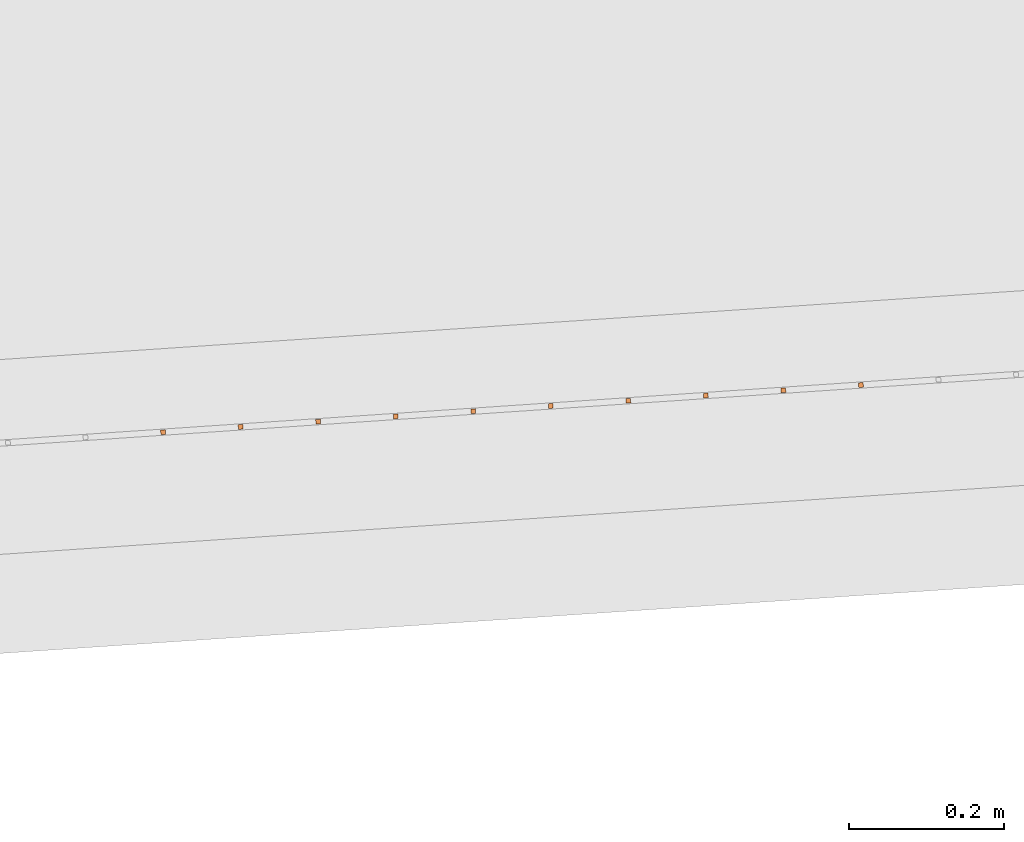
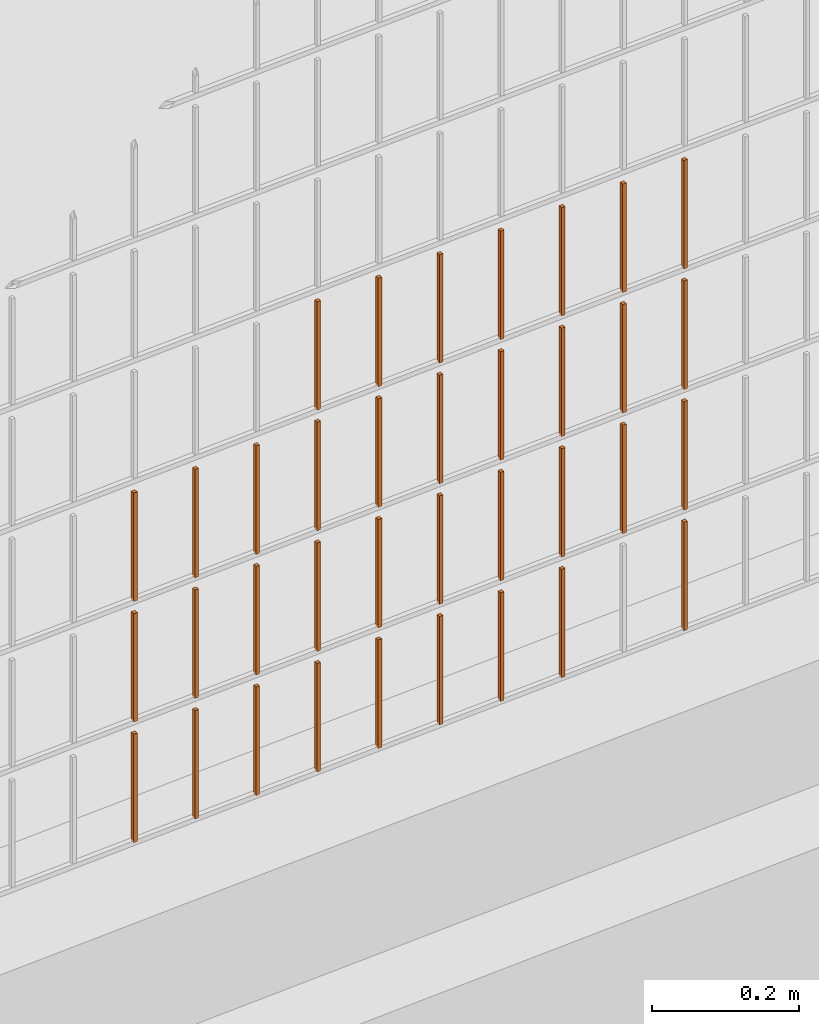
# One storey, part 301 of 1809: 36 proxies, 1 element without a shape of its own.
"""IFC2X3 building model written with IfcOpenShell, lengths in millimetres."""

from ifc_helpers import new_model, entity, si_unit, converted_unit, derived_unit, money_unit, direction, frame, origin_with_axes, place, context, subcontext, project, spatial, faceted_brep, source, transform, mapped, material, type_object, element, aggregate, save


model = new_model("IFC2X3")

# Units and contexts
model_context = context("Model", 3, precision=0.01, world=origin_with_axes(), true_north=direction((0.0, 1.0)))
body_context = subcontext(model_context, "Body", "Model", "MODEL_VIEW")
ifc_project = project(units=[si_unit("LENGTHUNIT", "METRE", prefix="MILLI"), si_unit("AREAUNIT", "SQUARE_METRE"), si_unit("VOLUMEUNIT", "CUBIC_METRE"), converted_unit("PLANEANGLEUNIT", "DEGREE", entity("IfcPlaneAngleMeasure", 0.0174532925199), si_unit("PLANEANGLEUNIT", "RADIAN"), dimensions=[0, 0, 0, 0, 0, 0, 0]), si_unit("SOLIDANGLEUNIT", "STERADIAN"), money_unit("EUR"), converted_unit("TIMEUNIT", "Year", entity("IfcTimeMeasure", 31556926.0), si_unit("TIMEUNIT", "SECOND"), dimensions=[0, 0, 1, 0, 0, 0, 0]), si_unit("MASSUNIT", "GRAM", prefix="KILO"), si_unit("THERMODYNAMICTEMPERATUREUNIT", "DEGREE_CELSIUS"), si_unit("LUMINOUSINTENSITYUNIT", "LUMEN"), si_unit("ENERGYUNIT", "JOULE", prefix="MEGA"), derived_unit("THERMALCONDUCTANCEUNIT", [(si_unit("POWERUNIT", "WATT"), 1), (si_unit("LENGTHUNIT", "METRE"), -1), (si_unit("THERMODYNAMICTEMPERATUREUNIT", "KELVIN"), -1)]), derived_unit("SPECIFICHEATCAPACITYUNIT", [(si_unit("ENERGYUNIT", "JOULE"), 1), (si_unit("MASSUNIT", "GRAM", prefix="KILO"), -1), (si_unit("THERMODYNAMICTEMPERATUREUNIT", "KELVIN"), -1)]), derived_unit("MASSDENSITYUNIT", [(si_unit("MASSUNIT", "GRAM", prefix="KILO"), 1), (si_unit("VOLUMEUNIT", "CUBIC_METRE"), -1)])], contexts=[model_context])

# Site, building, storey
site_placement = place(None, origin_with_axes())
site = spatial("IfcSite", under=ifc_project, at=site_placement, Name="Politse- ja Piirivalveameti ning Päästeameti ühishoone", CompositionType="ELEMENT")
building_placement = place(site_placement, origin_with_axes())
building = spatial("IfcBuilding", under=site, at=building_placement, Name="Politse- ja Piirivalveameti ning Päästeameti ühishoone", CompositionType="ELEMENT")
storey_placement = place(building_placement, origin_with_axes())
storey = spatial("IfcBuildingStorey", under=building, at=storey_placement, Name="Esimene korrus", CompositionType="ELEMENT", Elevation=0.0)

# Proxies
building_element_proxy_type_1 = type_object("IfcBuildingElementProxyType", Name="Railing Type", PredefinedType="NOTDEFINED")
proxy_1_placement = place(storey_placement, frame((89252.001212, -29183.4766571, 203.661247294), z_axis=(0.0, 0.0, 1.0), x_axis=(1.0, 0.0, 0.0)))
proxy_1 = element("IfcBuildingElementProxy", 1, at=proxy_1_placement, inside=storey, type_object=building_element_proxy_type_1, Name="PIIRDEAED")
ifc_material = material(Name="ET-03_Raud")
building_element_proxy_type_2 = type_object("IfcBuildingElementProxyType", Name="IfcBuildingElementProxy", PredefinedType="NOTDEFINED")
shared_shape_1 = source(origin_with_axes(), body_context, "Body", "Brep", [
    faceted_brep([(3.0, 3.0, -0.000752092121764), (-3.0, 3.0, -0.000752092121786), (-3.0, 3.0, 179.99926046), (3.0, 3.0, 179.99926046), (3.0, -3.0, 0.000752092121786), (-3.0, -3.0, 0.000752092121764), (-3.0, -3.0, 180.000764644), (3.0, -3.0, 180.000764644)], [[[0, 1, 2, 3]], [[0, 4, 5, 1]], [[1, 5, 6, 2]], [[3, 2, 6, 7]], [[4, 0, 3, 7]], [[5, 4, 7, 6]]]),
])
proxy_2_placement = place(proxy_1_placement, frame((-43926.5946254, -20264.8504556, 416.197010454), z_axis=(0.0, 0.0, 1.0), x_axis=(1.0, 0.0, 0.0)))
proxy_2 = element("IfcBuildingElementProxy", 2, at=proxy_2_placement, type_object=building_element_proxy_type_2, material=ifc_material, Name="BALUSTER - 001", context=body_context, shape_type="MappedRepresentation", body=[
    mapped(shared_shape_1, transform((0.0, 0.0, 0.0), x_axis=(-0.0673926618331, 0.997726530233, 0.0), y_axis=(-0.997726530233, -0.0673926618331, 0.0), z_axis=(0.0, 0.0, 1.0))),
])
shared_shape_2 = source(origin_with_axes(), body_context, "Body", "Brep", [
    faceted_brep([(3.0, 3.0, -0.000752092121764), (-3.0, 3.0, -0.000752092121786), (-3.0, 3.0, 179.99926046), (3.0, 3.0, 179.99926046), (3.0, -3.0, 0.000752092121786), (-3.0, -3.0, 0.000752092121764), (-3.0, -3.0, 180.000764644), (3.0, -3.0, 180.000764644)], [[[0, 1, 2, 3]], [[0, 4, 5, 1]], [[1, 5, 6, 2]], [[3, 2, 6, 7]], [[4, 0, 3, 7]], [[5, 4, 7, 6]]]),
])
proxy_3_placement = place(proxy_1_placement, frame((-43926.5946254, -20264.8504556, 216.197010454), z_axis=(0.0, 0.0, 1.0), x_axis=(1.0, 0.0, 0.0)))
proxy_3 = element("IfcBuildingElementProxy", 3, at=proxy_3_placement, type_object=building_element_proxy_type_2, material=ifc_material, Name="BALUSTER - 001", context=body_context, shape_type="MappedRepresentation", body=[
    mapped(shared_shape_2, transform((0.0, 0.0, 0.0), x_axis=(-0.0673926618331, 0.997726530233, 0.0), y_axis=(-0.997726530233, -0.0673926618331, 0.0), z_axis=(0.0, 0.0, 1.0))),
])
shared_shape_3 = source(origin_with_axes(), body_context, "Body", "Brep", [
    faceted_brep([(3.0, 3.0, -0.000752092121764), (-3.0, 3.0, -0.000752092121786), (-3.0, 3.0, 179.99926046), (3.0, 3.0, 179.99926046), (3.0, -3.0, 0.000752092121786), (-3.0, -3.0, 0.000752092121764), (-3.0, -3.0, 180.000764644), (3.0, -3.0, 180.000764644)], [[[0, 1, 2, 3]], [[0, 4, 5, 1]], [[1, 5, 6, 2]], [[3, 2, 6, 7]], [[4, 0, 3, 7]], [[5, 4, 7, 6]]]),
])
proxy_4_placement = place(proxy_1_placement, frame((-43926.5946254, -20264.8504556, 16.1970104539), z_axis=(0.0, 0.0, 1.0), x_axis=(1.0, 0.0, 0.0)))
proxy_4 = element("IfcBuildingElementProxy", 4, at=proxy_4_placement, type_object=building_element_proxy_type_2, material=ifc_material, Name="BALUSTER - 001", context=body_context, shape_type="MappedRepresentation", body=[
    mapped(shared_shape_3, transform((0.0, 0.0, 0.0), x_axis=(-0.0673926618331, 0.997726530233, 0.0), y_axis=(-0.997726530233, -0.0673926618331, 0.0), z_axis=(0.0, 0.0, 1.0))),
])
shared_shape_4 = source(origin_with_axes(), body_context, "Body", "Brep", [
    faceted_brep([(3.0, 3.0, -0.000752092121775), (-3.0, 3.0, -0.000752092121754), (-3.0, 3.0, 179.99926046), (3.0, 3.0, 179.99926046), (3.0, -3.0, 0.000752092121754), (-3.0, -3.0, 0.000752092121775), (-3.0, -3.0, 180.000764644), (3.0, -3.0, 180.000764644)], [[[0, 1, 2, 3]], [[0, 4, 5, 1]], [[1, 5, 6, 2]], [[3, 2, 6, 7]], [[4, 0, 3, 7]], [[5, 4, 7, 6]]]),
])
proxy_5_placement = place(proxy_1_placement, frame((-43627.2766664, -20244.632657, 16.2722196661), z_axis=(0.0, 0.0, 1.0), x_axis=(1.0, 0.0, 0.0)))
proxy_5 = element("IfcBuildingElementProxy", 5, at=proxy_5_placement, type_object=building_element_proxy_type_2, material=ifc_material, Name="BALUSTER - 001", context=body_context, shape_type="MappedRepresentation", body=[
    mapped(shared_shape_4, transform((0.0, 0.0, 0.0), x_axis=(-0.0673926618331, 0.997726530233, 0.0), y_axis=(-0.997726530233, -0.0673926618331, 0.0), z_axis=(0.0, 0.0, 1.0))),
])
shared_shape_5 = source(origin_with_axes(), body_context, "Body", "Brep", [
    faceted_brep([(3.0, 3.0, -0.000752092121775), (-3.0, 3.0, -0.000752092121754), (-3.0, 3.0, 179.99926046), (3.0, 3.0, 179.99926046), (3.0, -3.0, 0.000752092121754), (-3.0, -3.0, 0.000752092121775), (-3.0, -3.0, 180.000764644), (3.0, -3.0, 180.000764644)], [[[0, 1, 2, 3]], [[0, 4, 5, 1]], [[1, 5, 6, 2]], [[3, 2, 6, 7]], [[4, 0, 3, 7]], [[5, 4, 7, 6]]]),
])
proxy_6_placement = place(proxy_1_placement, frame((-43627.2766664, -20244.632657, 416.272219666), z_axis=(0.0, 0.0, 1.0), x_axis=(1.0, 0.0, 0.0)))
proxy_6 = element("IfcBuildingElementProxy", 6, at=proxy_6_placement, type_object=building_element_proxy_type_2, material=ifc_material, Name="BALUSTER - 001", context=body_context, shape_type="MappedRepresentation", body=[
    mapped(shared_shape_5, transform((0.0, 0.0, 0.0), x_axis=(-0.0673926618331, 0.997726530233, 0.0), y_axis=(-0.997726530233, -0.0673926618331, 0.0), z_axis=(0.0, 0.0, 1.0))),
])
shared_shape_6 = source(origin_with_axes(), body_context, "Body", "Brep", [
    faceted_brep([(3.0, 3.0, -0.000752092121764), (-3.0, 3.0, -0.000752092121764), (-3.0, 3.0, 179.99926046), (3.0, 3.0, 179.99926046), (3.0, -3.0, 0.000752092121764), (-3.0, -3.0, 0.000752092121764), (-3.0, -3.0, 180.000764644), (3.0, -3.0, 180.000764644)], [[[0, 1, 2, 3]], [[0, 4, 5, 1]], [[1, 5, 6, 2]], [[3, 2, 6, 7]], [[4, 0, 3, 7]], [[5, 4, 7, 6]]]),
])
proxy_7_placement = place(proxy_1_placement, frame((-43727.0493194, -20251.3719232, 616.247149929), z_axis=(0.0, 0.0, 1.0), x_axis=(1.0, 0.0, 0.0)))
proxy_7 = element("IfcBuildingElementProxy", 7, at=proxy_7_placement, type_object=building_element_proxy_type_2, material=ifc_material, Name="BALUSTER - 001", context=body_context, shape_type="MappedRepresentation", body=[
    mapped(shared_shape_6, transform((0.0, 0.0, 0.0), x_axis=(-0.0673926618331, 0.997726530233, 0.0), y_axis=(-0.997726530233, -0.0673926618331, 0.0), z_axis=(0.0, 0.0, 1.0))),
])
shared_shape_7 = source(origin_with_axes(), body_context, "Body", "Brep", [
    faceted_brep([(3.0, 3.0, -0.000752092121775), (-3.0, 3.0, -0.000752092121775), (-3.0, 3.0, 179.99926046), (3.0, 3.0, 179.99926046), (3.0, -3.0, 0.000752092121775), (-3.0, -3.0, 0.000752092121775), (-3.0, -3.0, 180.000764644), (3.0, -3.0, 180.000764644)], [[[0, 1, 2, 3]], [[0, 4, 5, 1]], [[1, 5, 6, 2]], [[3, 2, 6, 7]], [[4, 0, 3, 7]], [[5, 4, 7, 6]]]),
])
proxy_8_placement = place(proxy_1_placement, frame((-43327.9587073, -20224.4148585, 416.347428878), z_axis=(0.0, 0.0, 1.0), x_axis=(1.0, 0.0, 0.0)))
proxy_8 = element("IfcBuildingElementProxy", 8, at=proxy_8_placement, type_object=building_element_proxy_type_2, material=ifc_material, Name="BALUSTER - 001", context=body_context, shape_type="MappedRepresentation", body=[
    mapped(shared_shape_7, transform((0.0, 0.0, 0.0), x_axis=(-0.0673926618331, 0.997726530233, 0.0), y_axis=(-0.997726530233, -0.0673926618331, 0.0), z_axis=(0.0, 0.0, 1.0))),
])
proxy_9_placement = place(proxy_1_placement, frame((-43327.9587073, -20224.4148585, 616.347428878), z_axis=(0.0, 0.0, 1.0), x_axis=(1.0, 0.0, 0.0)))
proxy_9 = element("IfcBuildingElementProxy", 9, at=proxy_9_placement, type_object=building_element_proxy_type_2, material=ifc_material, Name="BALUSTER - 001", context=body_context, shape_type="MappedRepresentation", body=[
    mapped(shared_shape_7, transform((0.0, 0.0, 0.0), x_axis=(-0.0673926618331, 0.997726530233, 0.0), y_axis=(-0.997726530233, -0.0673926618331, 0.0), z_axis=(0.0, 0.0, 1.0))),
])
shared_shape_8 = source(origin_with_axes(), body_context, "Body", "Brep", [
    faceted_brep([(3.0, 3.0, -0.000752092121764), (-3.0, 3.0, -0.000752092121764), (-3.0, 3.0, 179.99926046), (3.0, 3.0, 179.99926046), (3.0, -3.0, 0.000752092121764), (-3.0, -3.0, 0.000752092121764), (-3.0, -3.0, 180.000764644), (3.0, -3.0, 180.000764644)], [[[0, 1, 2, 3]], [[0, 4, 5, 1]], [[1, 5, 6, 2]], [[3, 2, 6, 7]], [[4, 0, 3, 7]], [[5, 4, 7, 6]]]),
])
proxy_10_placement = place(proxy_1_placement, frame((-43527.5040133, -20237.8933908, 416.297289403), z_axis=(0.0, 0.0, 1.0), x_axis=(1.0, 0.0, 0.0)))
proxy_10 = element("IfcBuildingElementProxy", 10, at=proxy_10_placement, type_object=building_element_proxy_type_2, material=ifc_material, Name="BALUSTER - 001", context=body_context, shape_type="MappedRepresentation", body=[
    mapped(shared_shape_8, transform((0.0, 0.0, 0.0), x_axis=(-0.0673926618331, 0.997726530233, 0.0), y_axis=(-0.997726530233, -0.0673926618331, 0.0), z_axis=(0.0, 0.0, 1.0))),
])
shared_shape_9 = source(origin_with_axes(), body_context, "Body", "Brep", [
    faceted_brep([(3.0, 3.0, -0.000752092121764), (-3.0, 3.0, -0.000752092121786), (-3.0, 3.0, 179.99926046), (3.0, 3.0, 179.99926046), (3.0, -3.0, 0.000752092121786), (-3.0, -3.0, 0.000752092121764), (-3.0, -3.0, 180.000764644), (3.0, -3.0, 180.000764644)], [[[0, 1, 2, 3]], [[0, 4, 5, 1]], [[1, 5, 6, 2]], [[3, 2, 6, 7]], [[4, 0, 3, 7]], [[5, 4, 7, 6]]]),
])
proxy_11_placement = place(proxy_1_placement, frame((-43826.8219724, -20258.1111894, 216.222080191), z_axis=(0.0, 0.0, 1.0), x_axis=(1.0, 0.0, 0.0)))
proxy_11 = element("IfcBuildingElementProxy", 11, at=proxy_11_placement, type_object=building_element_proxy_type_2, material=ifc_material, Name="BALUSTER - 001", context=body_context, shape_type="MappedRepresentation", body=[
    mapped(shared_shape_9, transform((0.0, 0.0, 0.0), x_axis=(-0.0673926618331, 0.997726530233, 0.0), y_axis=(-0.997726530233, -0.0673926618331, 0.0), z_axis=(0.0, 0.0, 1.0))),
])
proxy_12_placement = place(proxy_1_placement, frame((-43826.8219724, -20258.1111894, 616.222080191), z_axis=(0.0, 0.0, 1.0), x_axis=(1.0, 0.0, 0.0)))
proxy_12 = element("IfcBuildingElementProxy", 12, at=proxy_12_placement, type_object=building_element_proxy_type_2, material=ifc_material, Name="BALUSTER - 001", context=body_context, shape_type="MappedRepresentation", body=[
    mapped(shared_shape_9, transform((0.0, 0.0, 0.0), x_axis=(-0.0673926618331, 0.997726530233, 0.0), y_axis=(-0.997726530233, -0.0673926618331, 0.0), z_axis=(0.0, 0.0, 1.0))),
])
shared_shape_10 = source(origin_with_axes(), body_context, "Body", "Brep", [
    faceted_brep([(3.0, 3.0, -0.000752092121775), (-3.0, 3.0, -0.000752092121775), (-3.0, 3.0, 179.99926046), (3.0, 3.0, 179.99926046), (3.0, -3.0, 0.000752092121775), (-3.0, -3.0, 0.000752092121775), (-3.0, -3.0, 180.000764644), (3.0, -3.0, 180.000764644)], [[[0, 1, 2, 3]], [[0, 4, 5, 1]], [[1, 5, 6, 2]], [[3, 2, 6, 7]], [[4, 0, 3, 7]], [[5, 4, 7, 6]]]),
])
proxy_13_placement = place(proxy_1_placement, frame((-43327.9587073, -20224.4148585, 216.347428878), z_axis=(0.0, 0.0, 1.0), x_axis=(1.0, 0.0, 0.0)))
proxy_13 = element("IfcBuildingElementProxy", 13, at=proxy_13_placement, type_object=building_element_proxy_type_2, material=ifc_material, Name="BALUSTER - 001", context=body_context, shape_type="MappedRepresentation", body=[
    mapped(shared_shape_10, transform((0.0, 0.0, 0.0), x_axis=(-0.0673926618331, 0.997726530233, 0.0), y_axis=(-0.997726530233, -0.0673926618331, 0.0), z_axis=(0.0, 0.0, 1.0))),
])
shared_shape_11 = source(origin_with_axes(), body_context, "Body", "Brep", [
    faceted_brep([(3.0, 3.0, -0.000752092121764), (-3.0, 3.0, -0.000752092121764), (-3.0, 3.0, 179.99926046), (3.0, 3.0, 179.99926046), (3.0, -3.0, 0.000752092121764), (-3.0, -3.0, 0.000752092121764), (-3.0, -3.0, 180.000764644), (3.0, -3.0, 180.000764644)], [[[0, 1, 2, 3]], [[0, 4, 5, 1]], [[1, 5, 6, 2]], [[3, 2, 6, 7]], [[4, 0, 3, 7]], [[5, 4, 7, 6]]]),
])
proxy_14_placement = place(proxy_1_placement, frame((-43727.0493194, -20251.3719232, 216.247149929), z_axis=(0.0, 0.0, 1.0), x_axis=(1.0, 0.0, 0.0)))
proxy_14 = element("IfcBuildingElementProxy", 14, at=proxy_14_placement, type_object=building_element_proxy_type_2, material=ifc_material, Name="BALUSTER - 001", context=body_context, shape_type="MappedRepresentation", body=[
    mapped(shared_shape_11, transform((0.0, 0.0, 0.0), x_axis=(-0.0673926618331, 0.997726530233, 0.0), y_axis=(-0.997726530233, -0.0673926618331, 0.0), z_axis=(0.0, 0.0, 1.0))),
])
proxy_15_placement = place(proxy_1_placement, frame((-43727.0493194, -20251.3719232, 416.247149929), z_axis=(0.0, 0.0, 1.0), x_axis=(1.0, 0.0, 0.0)))
proxy_15 = element("IfcBuildingElementProxy", 15, at=proxy_15_placement, type_object=building_element_proxy_type_2, material=ifc_material, Name="BALUSTER - 001", context=body_context, shape_type="MappedRepresentation", body=[
    mapped(shared_shape_11, transform((0.0, 0.0, 0.0), x_axis=(-0.0673926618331, 0.997726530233, 0.0), y_axis=(-0.997726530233, -0.0673926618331, 0.0), z_axis=(0.0, 0.0, 1.0))),
])
shared_shape_12 = source(origin_with_axes(), body_context, "Body", "Brep", [
    faceted_brep([(3.0, 3.0, -0.000752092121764), (-3.0, 3.0, -0.000752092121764), (-3.0, 3.0, 179.99926046), (3.0, 3.0, 179.99926046), (3.0, -3.0, 0.000752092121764), (-3.0, -3.0, 0.000752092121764), (-3.0, -3.0, 180.000764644), (3.0, -3.0, 180.000764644)], [[[0, 1, 2, 3]], [[0, 4, 5, 1]], [[1, 5, 6, 2]], [[3, 2, 6, 7]], [[4, 0, 3, 7]], [[5, 4, 7, 6]]]),
])
proxy_16_placement = place(proxy_1_placement, frame((-43527.5040133, -20237.8933908, 616.297289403), z_axis=(0.0, 0.0, 1.0), x_axis=(1.0, 0.0, 0.0)))
proxy_16 = element("IfcBuildingElementProxy", 16, at=proxy_16_placement, type_object=building_element_proxy_type_2, material=ifc_material, Name="BALUSTER - 001", context=body_context, shape_type="MappedRepresentation", body=[
    mapped(shared_shape_12, transform((0.0, 0.0, 0.0), x_axis=(-0.0673926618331, 0.997726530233, 0.0), y_axis=(-0.997726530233, -0.0673926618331, 0.0), z_axis=(0.0, 0.0, 1.0))),
])
shared_shape_13 = source(origin_with_axes(), body_context, "Body", "Brep", [
    faceted_brep([(3.0, 3.0, -0.000752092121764), (-3.0, 3.0, -0.000752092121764), (-3.0, 3.0, 179.99926046), (3.0, 3.0, 179.99926046), (3.0, -3.0, 0.000752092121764), (-3.0, -3.0, 0.000752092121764), (-3.0, -3.0, 180.000764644), (3.0, -3.0, 180.000764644)], [[[0, 1, 2, 3]], [[0, 4, 5, 1]], [[1, 5, 6, 2]], [[3, 2, 6, 7]], [[4, 0, 3, 7]], [[5, 4, 7, 6]]]),
])
proxy_17_placement = place(proxy_1_placement, frame((-43727.0493194, -20251.3719232, 16.2471499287), z_axis=(0.0, 0.0, 1.0), x_axis=(1.0, 0.0, 0.0)))
proxy_17 = element("IfcBuildingElementProxy", 17, at=proxy_17_placement, type_object=building_element_proxy_type_2, material=ifc_material, Name="BALUSTER - 001", context=body_context, shape_type="MappedRepresentation", body=[
    mapped(shared_shape_13, transform((0.0, 0.0, 0.0), x_axis=(-0.0673926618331, 0.997726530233, 0.0), y_axis=(-0.997726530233, -0.0673926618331, 0.0), z_axis=(0.0, 0.0, 1.0))),
])
shared_shape_14 = source(origin_with_axes(), body_context, "Body", "Brep", [
    faceted_brep([(3.0, 3.0, -0.000752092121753), (-3.0, 3.0, -0.000752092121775), (-3.0, 3.0, 179.99926046), (3.0, 3.0, 179.99926046), (3.0, -3.0, 0.000752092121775), (-3.0, -3.0, 0.000752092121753), (-3.0, -3.0, 180.000764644), (3.0, -3.0, 180.000764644)], [[[0, 1, 2, 3]], [[0, 4, 5, 1]], [[1, 5, 6, 2]], [[3, 2, 6, 7]], [[4, 0, 3, 7]], [[5, 4, 7, 6]]]),
])
proxy_18_placement = place(proxy_1_placement, frame((-43228.1860543, -20217.6755923, 16.3724986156), z_axis=(0.0, 0.0, 1.0), x_axis=(1.0, 0.0, 0.0)))
proxy_18 = element("IfcBuildingElementProxy", 18, at=proxy_18_placement, type_object=building_element_proxy_type_2, material=ifc_material, Name="BALUSTER - 001", context=body_context, shape_type="MappedRepresentation", body=[
    mapped(shared_shape_14, transform((0.0, 0.0, 0.0), x_axis=(-0.0673926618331, 0.997726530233, 0.0), y_axis=(-0.997726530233, -0.0673926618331, 0.0), z_axis=(0.0, 0.0, 1.0))),
])
proxy_19_placement = place(proxy_1_placement, frame((-44126.1399315, -20278.3289879, 16.1468709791), z_axis=(0.0, 0.0, 1.0), x_axis=(1.0, 0.0, 0.0)))
proxy_19 = element("IfcBuildingElementProxy", 19, at=proxy_19_placement, type_object=building_element_proxy_type_2, material=ifc_material, Name="BALUSTER - 001", context=body_context, shape_type="MappedRepresentation", body=[
    mapped(shared_shape_14, transform((0.0, 0.0, 0.0), x_axis=(-0.0673926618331, 0.997726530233, 0.0), y_axis=(-0.997726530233, -0.0673926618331, 0.0), z_axis=(0.0, 0.0, 1.0))),
])
proxy_20_placement = place(proxy_1_placement, frame((-44126.1399315, -20278.3289879, 216.146870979), z_axis=(0.0, 0.0, 1.0), x_axis=(1.0, 0.0, 0.0)))
proxy_20 = element("IfcBuildingElementProxy", 20, at=proxy_20_placement, type_object=building_element_proxy_type_2, material=ifc_material, Name="BALUSTER - 001", context=body_context, shape_type="MappedRepresentation", body=[
    mapped(shared_shape_14, transform((0.0, 0.0, 0.0), x_axis=(-0.0673926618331, 0.997726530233, 0.0), y_axis=(-0.997726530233, -0.0673926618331, 0.0), z_axis=(0.0, 0.0, 1.0))),
])
shared_shape_15 = source(origin_with_axes(), body_context, "Body", "Brep", [
    faceted_brep([(3.0, 3.0, -0.000752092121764), (-3.0, 3.0, -0.000752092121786), (-3.0, 3.0, 179.99926046), (3.0, 3.0, 179.99926046), (3.0, -3.0, 0.000752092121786), (-3.0, -3.0, 0.000752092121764), (-3.0, -3.0, 180.000764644), (3.0, -3.0, 180.000764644)], [[[0, 1, 2, 3]], [[0, 4, 5, 1]], [[1, 5, 6, 2]], [[3, 2, 6, 7]], [[4, 0, 3, 7]], [[5, 4, 7, 6]]]),
])
proxy_21_placement = place(proxy_1_placement, frame((-43826.8219724, -20258.1111894, 416.222080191), z_axis=(0.0, 0.0, 1.0), x_axis=(1.0, 0.0, 0.0)))
proxy_21 = element("IfcBuildingElementProxy", 21, at=proxy_21_placement, type_object=building_element_proxy_type_2, material=ifc_material, Name="BALUSTER - 001", context=body_context, shape_type="MappedRepresentation", body=[
    mapped(shared_shape_15, transform((0.0, 0.0, 0.0), x_axis=(-0.0673926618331, 0.997726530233, 0.0), y_axis=(-0.997726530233, -0.0673926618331, 0.0), z_axis=(0.0, 0.0, 1.0))),
])
shared_shape_16 = source(origin_with_axes(), body_context, "Body", "Brep", [
    faceted_brep([(3.0, 3.0, -0.000752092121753), (-3.0, 3.0, -0.000752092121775), (-3.0, 3.0, 179.99926046), (3.0, 3.0, 179.99926046), (3.0, -3.0, 0.000752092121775), (-3.0, -3.0, 0.000752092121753), (-3.0, -3.0, 180.000764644), (3.0, -3.0, 180.000764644)], [[[0, 1, 2, 3]], [[0, 4, 5, 1]], [[1, 5, 6, 2]], [[3, 2, 6, 7]], [[4, 0, 3, 7]], [[5, 4, 7, 6]]]),
])
proxy_22_placement = place(proxy_1_placement, frame((-44126.1399315, -20278.3289879, 416.146870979), z_axis=(0.0, 0.0, 1.0), x_axis=(1.0, 0.0, 0.0)))
proxy_22 = element("IfcBuildingElementProxy", 22, at=proxy_22_placement, type_object=building_element_proxy_type_2, material=ifc_material, Name="BALUSTER - 001", context=body_context, shape_type="MappedRepresentation", body=[
    mapped(shared_shape_16, transform((0.0, 0.0, 0.0), x_axis=(-0.0673926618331, 0.997726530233, 0.0), y_axis=(-0.997726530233, -0.0673926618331, 0.0), z_axis=(0.0, 0.0, 1.0))),
])
shared_shape_17 = source(origin_with_axes(), body_context, "Body", "Brep", [
    faceted_brep([(3.0, 3.0, -0.000752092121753), (-3.0, 3.0, -0.000752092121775), (-3.0, 3.0, 179.99926046), (3.0, 3.0, 179.99926046), (3.0, -3.0, 0.000752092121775), (-3.0, -3.0, 0.000752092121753), (-3.0, -3.0, 180.000764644), (3.0, -3.0, 180.000764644)], [[[0, 1, 2, 3]], [[0, 4, 5, 1]], [[1, 5, 6, 2]], [[3, 2, 6, 7]], [[4, 0, 3, 7]], [[5, 4, 7, 6]]]),
])
proxy_23_placement = place(proxy_1_placement, frame((-43228.1860543, -20217.6755923, 616.372498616), z_axis=(0.0, 0.0, 1.0), x_axis=(1.0, 0.0, 0.0)))
proxy_23 = element("IfcBuildingElementProxy", 23, at=proxy_23_placement, type_object=building_element_proxy_type_2, material=ifc_material, Name="BALUSTER - 001", context=body_context, shape_type="MappedRepresentation", body=[
    mapped(shared_shape_17, transform((0.0, 0.0, 0.0), x_axis=(-0.0673926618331, 0.997726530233, 0.0), y_axis=(-0.997726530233, -0.0673926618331, 0.0), z_axis=(0.0, 0.0, 1.0))),
])
shared_shape_18 = source(origin_with_axes(), body_context, "Body", "Brep", [
    faceted_brep([(3.0, 3.0, -0.000752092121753), (-3.0, 3.0, -0.000752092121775), (-3.0, 3.0, 179.99926046), (3.0, 3.0, 179.99926046), (3.0, -3.0, 0.000752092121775), (-3.0, -3.0, 0.000752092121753), (-3.0, -3.0, 180.000764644), (3.0, -3.0, 180.000764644)], [[[0, 1, 2, 3]], [[0, 4, 5, 1]], [[1, 5, 6, 2]], [[3, 2, 6, 7]], [[4, 0, 3, 7]], [[5, 4, 7, 6]]]),
])
proxy_24_placement = place(proxy_1_placement, frame((-43427.7313603, -20231.1541247, 16.3223591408), z_axis=(0.0, 0.0, 1.0), x_axis=(1.0, 0.0, 0.0)))
proxy_24 = element("IfcBuildingElementProxy", 24, at=proxy_24_placement, type_object=building_element_proxy_type_2, material=ifc_material, Name="BALUSTER - 001", context=body_context, shape_type="MappedRepresentation", body=[
    mapped(shared_shape_18, transform((0.0, 0.0, 0.0), x_axis=(-0.0673926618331, 0.997726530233, 0.0), y_axis=(-0.997726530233, -0.0673926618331, 0.0), z_axis=(0.0, 0.0, 1.0))),
])
proxy_25_placement = place(proxy_1_placement, frame((-44026.3672785, -20271.5897218, 16.1719407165), z_axis=(0.0, 0.0, 1.0), x_axis=(1.0, 0.0, 0.0)))
proxy_25 = element("IfcBuildingElementProxy", 25, at=proxy_25_placement, type_object=building_element_proxy_type_2, material=ifc_material, Name="BALUSTER - 001", context=body_context, shape_type="MappedRepresentation", body=[
    mapped(shared_shape_18, transform((0.0, 0.0, 0.0), x_axis=(-0.0673926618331, 0.997726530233, 0.0), y_axis=(-0.997726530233, -0.0673926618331, 0.0), z_axis=(0.0, 0.0, 1.0))),
])
shared_shape_19 = source(origin_with_axes(), body_context, "Body", "Brep", [
    faceted_brep([(3.0, 3.0, -0.000752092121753), (-3.0, 3.0, -0.000752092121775), (-3.0, 3.0, 179.99926046), (3.0, 3.0, 179.99926046), (3.0, -3.0, 0.000752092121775), (-3.0, -3.0, 0.000752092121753), (-3.0, -3.0, 180.000764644), (3.0, -3.0, 180.000764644)], [[[0, 1, 2, 3]], [[0, 4, 5, 1]], [[1, 5, 6, 2]], [[3, 2, 6, 7]], [[4, 0, 3, 7]], [[5, 4, 7, 6]]]),
])
proxy_26_placement = place(proxy_1_placement, frame((-43228.1860543, -20217.6755923, 216.372498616), z_axis=(0.0, 0.0, 1.0), x_axis=(1.0, 0.0, 0.0)))
proxy_26 = element("IfcBuildingElementProxy", 26, at=proxy_26_placement, type_object=building_element_proxy_type_2, material=ifc_material, Name="BALUSTER - 001", context=body_context, shape_type="MappedRepresentation", body=[
    mapped(shared_shape_19, transform((0.0, 0.0, 0.0), x_axis=(-0.0673926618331, 0.997726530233, 0.0), y_axis=(-0.997726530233, -0.0673926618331, 0.0), z_axis=(0.0, 0.0, 1.0))),
])
proxy_27_placement = place(proxy_1_placement, frame((-43228.1860543, -20217.6755923, 416.372498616), z_axis=(0.0, 0.0, 1.0), x_axis=(1.0, 0.0, 0.0)))
proxy_27 = element("IfcBuildingElementProxy", 27, at=proxy_27_placement, type_object=building_element_proxy_type_2, material=ifc_material, Name="BALUSTER - 001", context=body_context, shape_type="MappedRepresentation", body=[
    mapped(shared_shape_19, transform((0.0, 0.0, 0.0), x_axis=(-0.0673926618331, 0.997726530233, 0.0), y_axis=(-0.997726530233, -0.0673926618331, 0.0), z_axis=(0.0, 0.0, 1.0))),
])
proxy_28_placement = place(proxy_1_placement, frame((-43427.7313603, -20231.1541247, 416.322359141), z_axis=(0.0, 0.0, 1.0), x_axis=(1.0, 0.0, 0.0)))
proxy_28 = element("IfcBuildingElementProxy", 28, at=proxy_28_placement, type_object=building_element_proxy_type_2, material=ifc_material, Name="BALUSTER - 001", context=body_context, shape_type="MappedRepresentation", body=[
    mapped(shared_shape_19, transform((0.0, 0.0, 0.0), x_axis=(-0.0673926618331, 0.997726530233, 0.0), y_axis=(-0.997726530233, -0.0673926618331, 0.0), z_axis=(0.0, 0.0, 1.0))),
])
proxy_29_placement = place(proxy_1_placement, frame((-44026.3672785, -20271.5897218, 416.171940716), z_axis=(0.0, 0.0, 1.0), x_axis=(1.0, 0.0, 0.0)))
proxy_29 = element("IfcBuildingElementProxy", 29, at=proxy_29_placement, type_object=building_element_proxy_type_2, material=ifc_material, Name="BALUSTER - 001", context=body_context, shape_type="MappedRepresentation", body=[
    mapped(shared_shape_19, transform((0.0, 0.0, 0.0), x_axis=(-0.0673926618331, 0.997726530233, 0.0), y_axis=(-0.997726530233, -0.0673926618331, 0.0), z_axis=(0.0, 0.0, 1.0))),
])
proxy_30_placement = place(proxy_1_placement, frame((-43427.7313603, -20231.1541247, 616.322359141), z_axis=(0.0, 0.0, 1.0), x_axis=(1.0, 0.0, 0.0)))
proxy_30 = element("IfcBuildingElementProxy", 30, at=proxy_30_placement, type_object=building_element_proxy_type_2, material=ifc_material, Name="BALUSTER - 001", context=body_context, shape_type="MappedRepresentation", body=[
    mapped(shared_shape_19, transform((0.0, 0.0, 0.0), x_axis=(-0.0673926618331, 0.997726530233, 0.0), y_axis=(-0.997726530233, -0.0673926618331, 0.0), z_axis=(0.0, 0.0, 1.0))),
])
shared_shape_20 = source(origin_with_axes(), body_context, "Body", "Brep", [
    faceted_brep([(3.0, 3.0, -0.000752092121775), (-3.0, 3.0, -0.000752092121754), (-3.0, 3.0, 179.99926046), (3.0, 3.0, 179.99926046), (3.0, -3.0, 0.000752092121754), (-3.0, -3.0, 0.000752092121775), (-3.0, -3.0, 180.000764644), (3.0, -3.0, 180.000764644)], [[[0, 1, 2, 3]], [[0, 4, 5, 1]], [[1, 5, 6, 2]], [[3, 2, 6, 7]], [[4, 0, 3, 7]], [[5, 4, 7, 6]]]),
])
proxy_31_placement = place(proxy_1_placement, frame((-43627.2766664, -20244.632657, 216.272219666), z_axis=(0.0, 0.0, 1.0), x_axis=(1.0, 0.0, 0.0)))
proxy_31 = element("IfcBuildingElementProxy", 31, at=proxy_31_placement, type_object=building_element_proxy_type_2, material=ifc_material, Name="BALUSTER - 001", context=body_context, shape_type="MappedRepresentation", body=[
    mapped(shared_shape_20, transform((0.0, 0.0, 0.0), x_axis=(-0.0673926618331, 0.997726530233, 0.0), y_axis=(-0.997726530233, -0.0673926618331, 0.0), z_axis=(0.0, 0.0, 1.0))),
])
shared_shape_21 = source(origin_with_axes(), body_context, "Body", "Brep", [
    faceted_brep([(3.0, 3.0, -0.000752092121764), (-3.0, 3.0, -0.000752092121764), (-3.0, 3.0, 179.99926046), (3.0, 3.0, 179.99926046), (3.0, -3.0, 0.000752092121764), (-3.0, -3.0, 0.000752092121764), (-3.0, -3.0, 180.000764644), (3.0, -3.0, 180.000764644)], [[[0, 1, 2, 3]], [[0, 4, 5, 1]], [[1, 5, 6, 2]], [[3, 2, 6, 7]], [[4, 0, 3, 7]], [[5, 4, 7, 6]]]),
])
proxy_32_placement = place(proxy_1_placement, frame((-43527.5040133, -20237.8933908, 16.2972894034), z_axis=(0.0, 0.0, 1.0), x_axis=(1.0, 0.0, 0.0)))
proxy_32 = element("IfcBuildingElementProxy", 32, at=proxy_32_placement, type_object=building_element_proxy_type_2, material=ifc_material, Name="BALUSTER - 001", context=body_context, shape_type="MappedRepresentation", body=[
    mapped(shared_shape_21, transform((0.0, 0.0, 0.0), x_axis=(-0.0673926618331, 0.997726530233, 0.0), y_axis=(-0.997726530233, -0.0673926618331, 0.0), z_axis=(0.0, 0.0, 1.0))),
])
proxy_33_placement = place(proxy_1_placement, frame((-43527.5040133, -20237.8933908, 216.297289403), z_axis=(0.0, 0.0, 1.0), x_axis=(1.0, 0.0, 0.0)))
proxy_33 = element("IfcBuildingElementProxy", 33, at=proxy_33_placement, type_object=building_element_proxy_type_2, material=ifc_material, Name="BALUSTER - 001", context=body_context, shape_type="MappedRepresentation", body=[
    mapped(shared_shape_21, transform((0.0, 0.0, 0.0), x_axis=(-0.0673926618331, 0.997726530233, 0.0), y_axis=(-0.997726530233, -0.0673926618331, 0.0), z_axis=(0.0, 0.0, 1.0))),
])
shared_shape_22 = source(origin_with_axes(), body_context, "Body", "Brep", [
    faceted_brep([(3.0, 3.0, -0.000752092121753), (-3.0, 3.0, -0.000752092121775), (-3.0, 3.0, 179.99926046), (3.0, 3.0, 179.99926046), (3.0, -3.0, 0.000752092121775), (-3.0, -3.0, 0.000752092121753), (-3.0, -3.0, 180.000764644), (3.0, -3.0, 180.000764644)], [[[0, 1, 2, 3]], [[0, 4, 5, 1]], [[1, 5, 6, 2]], [[3, 2, 6, 7]], [[4, 0, 3, 7]], [[5, 4, 7, 6]]]),
])
proxy_34_placement = place(proxy_1_placement, frame((-43427.7313603, -20231.1541247, 216.322359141), z_axis=(0.0, 0.0, 1.0), x_axis=(1.0, 0.0, 0.0)))
proxy_34 = element("IfcBuildingElementProxy", 34, at=proxy_34_placement, type_object=building_element_proxy_type_2, material=ifc_material, Name="BALUSTER - 001", context=body_context, shape_type="MappedRepresentation", body=[
    mapped(shared_shape_22, transform((0.0, 0.0, 0.0), x_axis=(-0.0673926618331, 0.997726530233, 0.0), y_axis=(-0.997726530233, -0.0673926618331, 0.0), z_axis=(0.0, 0.0, 1.0))),
])
proxy_35_placement = place(proxy_1_placement, frame((-44026.3672785, -20271.5897218, 216.171940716), z_axis=(0.0, 0.0, 1.0), x_axis=(1.0, 0.0, 0.0)))
proxy_35 = element("IfcBuildingElementProxy", 35, at=proxy_35_placement, type_object=building_element_proxy_type_2, material=ifc_material, Name="BALUSTER - 001", context=body_context, shape_type="MappedRepresentation", body=[
    mapped(shared_shape_22, transform((0.0, 0.0, 0.0), x_axis=(-0.0673926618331, 0.997726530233, 0.0), y_axis=(-0.997726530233, -0.0673926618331, 0.0), z_axis=(0.0, 0.0, 1.0))),
])
shared_shape_23 = source(origin_with_axes(), body_context, "Body", "Brep", [
    faceted_brep([(3.0, 3.0, -0.000752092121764), (-3.0, 3.0, -0.000752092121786), (-3.0, 3.0, 179.99926046), (3.0, 3.0, 179.99926046), (3.0, -3.0, 0.000752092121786), (-3.0, -3.0, 0.000752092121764), (-3.0, -3.0, 180.000764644), (3.0, -3.0, 180.000764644)], [[[0, 1, 2, 3]], [[0, 4, 5, 1]], [[1, 5, 6, 2]], [[3, 2, 6, 7]], [[4, 0, 3, 7]], [[5, 4, 7, 6]]]),
])
proxy_36_placement = place(proxy_1_placement, frame((-43826.8219724, -20258.1111894, 16.2220801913), z_axis=(0.0, 0.0, 1.0), x_axis=(1.0, 0.0, 0.0)))
proxy_36 = element("IfcBuildingElementProxy", 36, at=proxy_36_placement, type_object=building_element_proxy_type_2, material=ifc_material, Name="BALUSTER - 001", context=body_context, shape_type="MappedRepresentation", body=[
    mapped(shared_shape_23, transform((0.0, 0.0, 0.0), x_axis=(-0.0673926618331, 0.997726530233, 0.0), y_axis=(-0.997726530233, -0.0673926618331, 0.0), z_axis=(0.0, 0.0, 1.0))),
])
shared_shape_24 = source(origin_with_axes(), body_context, "Body", "Brep", [
    faceted_brep([(3.0, 3.0, -0.000752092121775), (-3.0, 3.0, -0.000752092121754), (-3.0, 3.0, 179.99926046), (3.0, 3.0, 179.99926046), (3.0, -3.0, 0.000752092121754), (-3.0, -3.0, 0.000752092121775), (-3.0, -3.0, 180.000764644), (3.0, -3.0, 180.000764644)], [[[0, 1, 2, 3]], [[0, 4, 5, 1]], [[1, 5, 6, 2]], [[3, 2, 6, 7]], [[4, 0, 3, 7]], [[5, 4, 7, 6]]]),
])
proxy_37_placement = place(proxy_1_placement, frame((-43627.2766664, -20244.632657, 616.272219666), z_axis=(0.0, 0.0, 1.0), x_axis=(1.0, 0.0, 0.0)))
proxy_37 = element("IfcBuildingElementProxy", 37, at=proxy_37_placement, type_object=building_element_proxy_type_2, material=ifc_material, Name="BALUSTER - 001", context=body_context, shape_type="MappedRepresentation", body=[
    mapped(shared_shape_24, transform((0.0, 0.0, 0.0), x_axis=(-0.0673926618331, 0.997726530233, 0.0), y_axis=(-0.997726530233, -0.0673926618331, 0.0), z_axis=(0.0, 0.0, 1.0))),
])
aggregate(proxy_1, [proxy_18, proxy_24, proxy_32, proxy_5, proxy_17, proxy_36, proxy_4, proxy_25, proxy_19, proxy_26, proxy_13, proxy_34, proxy_33, proxy_31, proxy_14, proxy_11, proxy_3, proxy_35, proxy_20, proxy_27, proxy_8, proxy_28, proxy_10, proxy_6, proxy_15, proxy_21, proxy_2, proxy_29, proxy_22, proxy_23, proxy_9, proxy_30, proxy_16, proxy_37, proxy_7, proxy_12])

save(model, "model.ifc")
